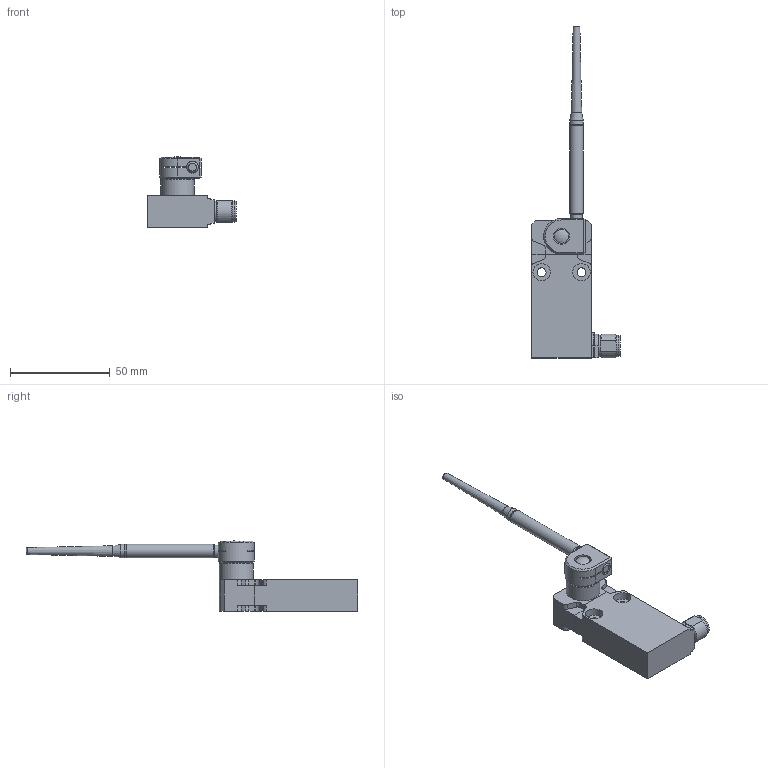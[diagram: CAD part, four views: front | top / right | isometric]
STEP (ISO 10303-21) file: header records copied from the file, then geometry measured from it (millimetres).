
FILE_DESCRIPTION(/* description */ (''),/* implementation_level */ '2;1');
FILE_NAME(/* name */ 'C:\Users\servizio.tecnico\Desktop\CADENAS\3D\EP1_STP\STP_EP1_G61M.stp',/* time_stamp */ '2017-09-04T11:51:33+02:00',/* author */ ('servizio.tecnico'),/* organization */ (''),/* preprocessor_version */ 'ST-DEVELOPER v16.1',/* originating_system */ 'Autodesk Inventor 2016',/* authorisation */ '');
FILE_SCHEMA (('AUTOMOTIVE_DESIGN { 1 0 10303 214 3 1 1 }'));
Length unit declared in the file: millimetre
Products named in the file (3): Product; EP1G61-M; BASE ASSI 
Assembly tree (2 placements, depth 3):
  BASE ASSI 
    EP1G61-M
      Product
Bounding box: 44.5 x 166.5 x 35.58 mm (x, y, z)
Volume: 39926 mm3; surface area: 14286.7 mm2
Topology: 4 solids, 4 shells, 152 faces, 374 edges, 242 vertices
Faces by surface type: plane 92, cylinder 45, cone 9, torus 5, sphere 1
Full cylindrical faces by diameter (mm): 4.4 x2, 6 x1, 6.8 x2, 7 x1, 8.2 x1, 8.7 x4, 10.3 x1, 10.6 x2, 11 x1, 17 x1
Entity records: 4442 total; most frequent: DIRECTION 758, CARTESIAN_POINT 754, ORIENTED_EDGE 690, EDGE_CURVE 345, AXIS2_PLACEMENT_3D 264, VERTEX_POINT 236, LINE 230, VECTOR 230
